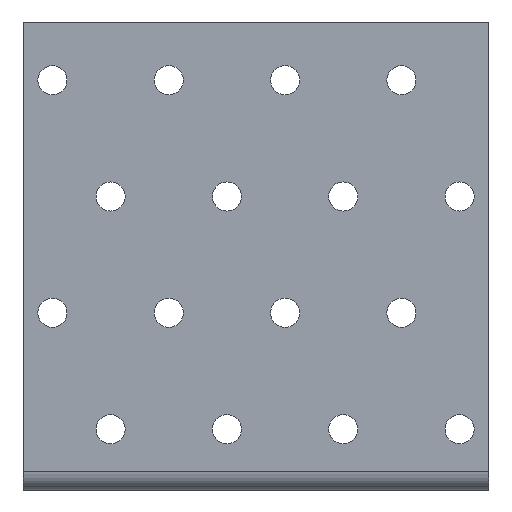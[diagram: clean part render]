
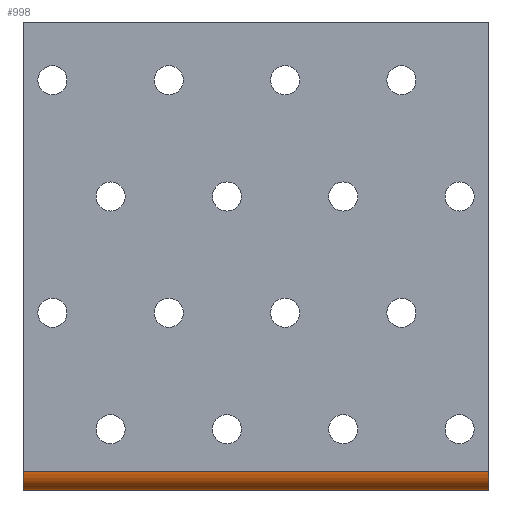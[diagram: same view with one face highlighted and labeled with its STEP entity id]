
A CAD part, front view. The second image highlights one B-rep face of the part: STEP entity #998.
In plain terms, the highlighted cylindrical face has radius 3.237 mm (diameter 6.473 mm), a partial arc.
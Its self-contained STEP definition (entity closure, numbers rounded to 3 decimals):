
#252 = CARTESIAN_POINT ( 'NONE',  ( 0., 0.737, -80.462 ) ) ;
#287 = CIRCLE ( 'NONE', #538, 3.237 ) ;
#389 = DIRECTION ( 'NONE',  ( -1., 0., 0. ) ) ;
#445 = DIRECTION ( 'NONE',  ( 0., 0., -1. ) ) ;
#473 = DIRECTION ( 'NONE',  ( 1., 0., 0. ) ) ;
#538 = AXIS2_PLACEMENT_3D ( 'NONE', #1660, #389, #445 ) ;
#589 = DIRECTION ( 'NONE',  ( 0., 0., 1. ) ) ;
#590 = ORIENTED_EDGE ( 'NONE', *, *, #1691, .T. ) ;
#682 = CARTESIAN_POINT ( 'NONE',  ( 80., 0.737, -80.462 ) ) ;
#694 = FACE_OUTER_BOUND ( 'NONE', #2590, .T. ) ;
#714 = EDGE_CURVE ( 'NONE', #2398, #1464, #287, .T. ) ;
#779 = ORIENTED_EDGE ( 'NONE', *, *, #2135, .T. ) ;
#791 = CARTESIAN_POINT ( 'NONE',  ( 0., 0.737, -77.225 ) ) ;
#833 = DIRECTION ( 'NONE',  ( 1., 0., 0. ) ) ;
#846 = EDGE_CURVE ( 'NONE', #2079, #1464, #1430, .T. ) ;
#998 = ADVANCED_FACE ( 'NONE', ( #694 ), #2326, .T. ) ;
#1031 = ORIENTED_EDGE ( 'NONE', *, *, #846, .F. ) ;
#1044 = LINE ( 'NONE', #252, #2576 ) ;
#1056 = CARTESIAN_POINT ( 'NONE',  ( 0., 0.737, -80.462 ) ) ;
#1063 = DIRECTION ( 'NONE',  ( 0., 0., -1. ) ) ;
#1321 = DIRECTION ( 'NONE',  ( 1., 0., 0. ) ) ;
#1335 = CARTESIAN_POINT ( 'NONE',  ( -40.054, 0.737, -77.225 ) ) ;
#1419 = CARTESIAN_POINT ( 'NONE',  ( 80., -2.5, -77.225 ) ) ;
#1430 = LINE ( 'NONE', #1876, #2734 ) ;
#1450 = AXIS2_PLACEMENT_3D ( 'NONE', #1335, #473, #1063 ) ;
#1464 = VERTEX_POINT ( 'NONE', #1419 ) ;
#1546 = ORIENTED_EDGE ( 'NONE', *, *, #714, .T. ) ;
#1555 = AXIS2_PLACEMENT_3D ( 'NONE', #791, #2277, #589 ) ;
#1660 = CARTESIAN_POINT ( 'NONE',  ( 80., 0.737, -77.225 ) ) ;
#1691 = EDGE_CURVE ( 'NONE', #2600, #2398, #1044, .T. ) ;
#1876 = CARTESIAN_POINT ( 'NONE',  ( 0., -2.5, -77.225 ) ) ;
#1930 = CIRCLE ( 'NONE', #1555, 3.237 ) ;
#2079 = VERTEX_POINT ( 'NONE', #2723 ) ;
#2135 = EDGE_CURVE ( 'NONE', #2079, #2600, #1930, .T. ) ;
#2277 = DIRECTION ( 'NONE',  ( 1., 0., 0. ) ) ;
#2326 = CYLINDRICAL_SURFACE ( 'NONE', #1450, 3.237 ) ;
#2398 = VERTEX_POINT ( 'NONE', #682 ) ;
#2576 = VECTOR ( 'NONE', #1321, 1000. ) ;
#2590 = EDGE_LOOP ( 'NONE', ( #590, #1546, #1031, #779 ) ) ;
#2600 = VERTEX_POINT ( 'NONE', #1056 ) ;
#2723 = CARTESIAN_POINT ( 'NONE',  ( 0., -2.5, -77.225 ) ) ;
#2734 = VECTOR ( 'NONE', #833, 1000. ) ;
